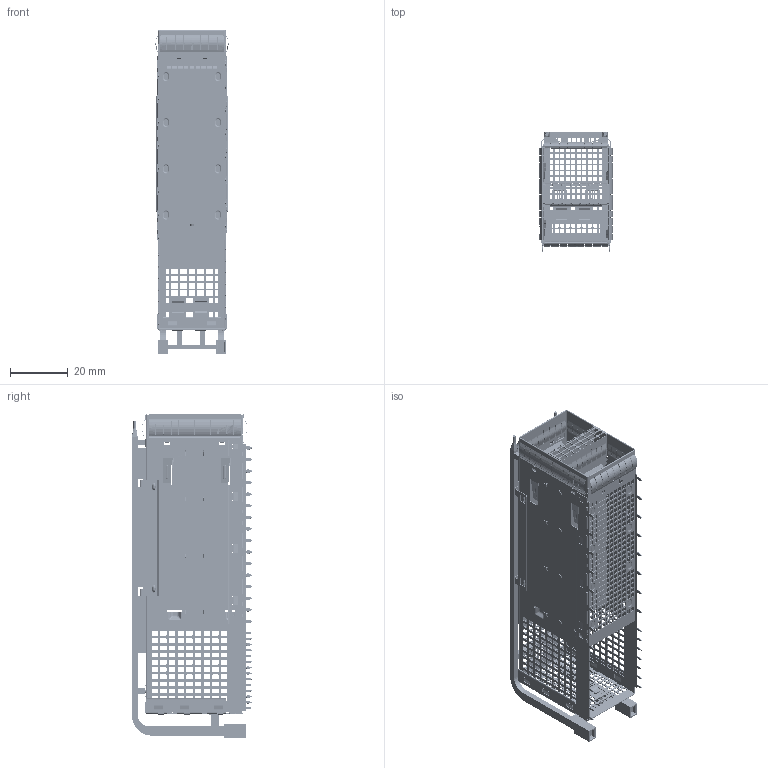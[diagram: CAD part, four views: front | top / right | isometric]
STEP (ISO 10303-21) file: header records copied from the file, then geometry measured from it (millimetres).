
FILE_DESCRIPTION((''),'2;1');
FILE_NAME('1747756089_1_1_1_1_1_1_1_1','2026-06-25T15:46:12',('39002408'),(''),'CREO PARAMETRIC BY PTC INC, 2019471','CREO PARAMETRIC BY PTC INC, 2019471','');
FILE_SCHEMA(('CONFIG_CONTROL_DESIGN'));
Products named in the file (1): 1747756089_1_1_1_1_1_1_1_1
Bounding box: 25.28 x 41.6 x 111.91 mm (x, y, z)
Surface area: 48255.4 mm2
Topology: 1 solids, 2 shells, 12069 faces, 35394 edges, 23030 vertices
Faces by surface type: plane 5593, cylinder 5392, bspline 544, torus 524, sphere 16
Entity records: 429117 total; most frequent: CARTESIAN_POINT 99814, ORIENTED_EDGE 70754, DIRECTION 68059, EDGE_CURVE 35378, VERTEX_POINT 23030, AXIS2_PLACEMENT_3D 22969, VECTOR 22121, LINE 22121
